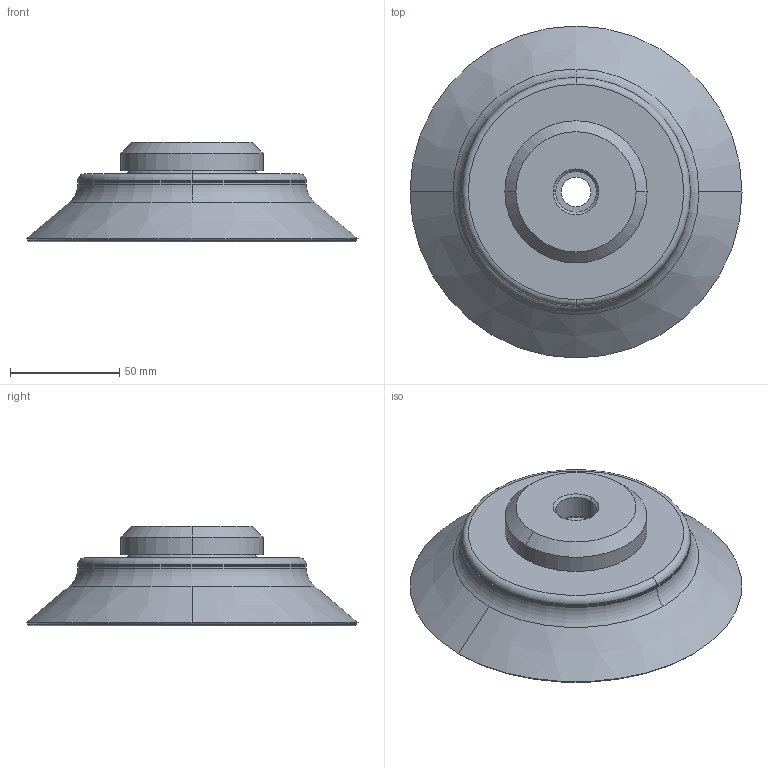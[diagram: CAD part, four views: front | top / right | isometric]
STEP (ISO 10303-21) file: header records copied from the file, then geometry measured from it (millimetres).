
FILE_DESCRIPTION (( 'STEP AP214' ), '1' );
FILE_NAME ('PFYN-150-HT1-60.STEP', '2021-06-30T03:43:42', ( '微软用户' ), ( '微软中国' ), 'SwSTEP 2.0', 'SolidWorks 2018', '' );
FILE_SCHEMA (( 'AUTOMOTIVE_DESIGN' ));
Length unit declared in the file: millimetre
Products named in the file (1): PFYN-150-HT1-60
Bounding box: 151.73 x 151.73 x 45.5 mm (x, y, z)
Volume: 253849 mm3; surface area: 59193.8 mm2
Topology: 1 solids, 1 shells, 193 faces, 446 edges, 274 vertices
Faces by surface type: cone 62, cylinder 58, plane 49, torus 24
Entity records: 7571 total; most frequent: CARTESIAN_POINT 1050, DIRECTION 1000, ORIENTED_EDGE 876, AXIS2_PLACEMENT_3D 440, EDGE_CURVE 438, VERTEX_POINT 274, CIRCLE 246, EDGE_LOOP 230
